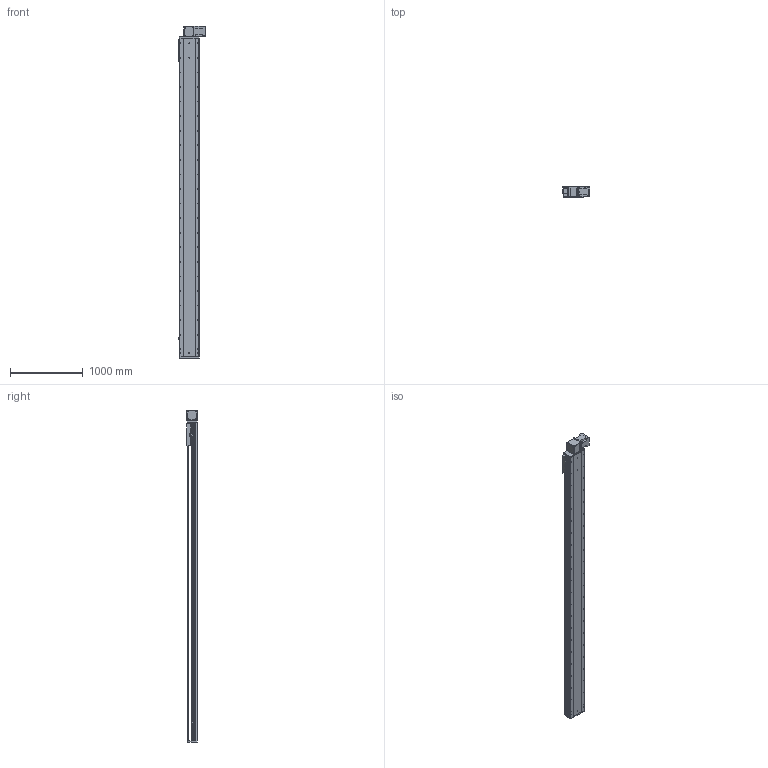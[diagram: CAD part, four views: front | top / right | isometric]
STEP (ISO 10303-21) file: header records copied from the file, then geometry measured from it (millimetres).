
FILE_DESCRIPTION (( 'STEP AP214' ), '1' );
FILE_NAME ('RTB28S-XX-3950-BL-M100-XX-C4.STEP', '2025-12-22T02:42:14', ( '' ), ( '' ), 'SwSTEP 2.0', 'SolidWorks 2018', '' );
FILE_SCHEMA (( 'AUTOMOTIVE_DESIGN' ));
Length unit declared in the file: millimetre
Products named in the file (4): RTB28S-GY-004^RTB28S-XX-XX-BL-M100-XX-C4; RTB28S-GY-011^RTB28S-XX-XX-BL-M100-XX-C4; RTB28S-XX-3950-BL-M100-XX-C4; RTB28S-GY-008^RTB28S-XX-XX-BL-M100-XX-C4
Assembly tree (3 placements, depth 2):
  RTB28S-XX-3950-BL-M100-XX-C4
    RTB28S-GY-011^RTB28S-XX-XX-BL-M100-XX-C4
    RTB28S-GY-004^RTB28S-XX-XX-BL-M100-XX-C4
    RTB28S-GY-008^RTB28S-XX-XX-BL-M100-XX-C4
Bounding box: 380.7 x 145 x 4557 mm (x, y, z)
Volume: 76064719 mm3; surface area: 7055093.2 mm2
Topology: 3 solids, 4 shells, 938 faces, 2538 edges, 1628 vertices
Faces by surface type: cylinder 479, plane 375, cone 80, torus 4
Entity records: 36803 total; most frequent: CARTESIAN_POINT 7252, DIRECTION 5412, ORIENTED_EDGE 5012, EDGE_CURVE 2506, AXIS2_PLACEMENT_3D 2016, VERTEX_POINT 1628, VECTOR 1380, LINE 1380
